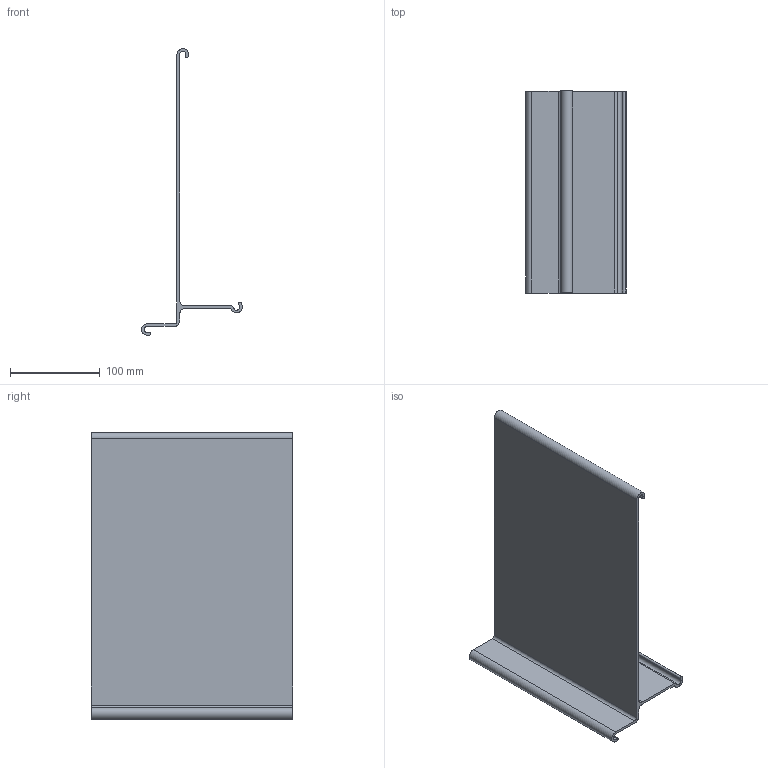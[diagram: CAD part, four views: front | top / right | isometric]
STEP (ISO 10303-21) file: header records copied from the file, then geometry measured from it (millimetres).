
FILE_DESCRIPTION( ( 'Unknown' ), '1' );
FILE_NAME( 'C:/Users/utente/Desktop/DANESE SPACE 2017/archiviovivo/archiviovivo 22,5.stp', 'Unknown', ( 'Unknown' ), ( 'Unknown' ), 'PSStep 14.0', 'Unknown', ' ' );
FILE_SCHEMA( ( 'AUTOMOTIVE_DESIGN { 1 0 10303 214 1 1 1 1 }' ) );
Length unit declared in the file: millimetre
Products named in the file (1): 1
Bounding box: 112.48 x 225 x 319.99 mm (x, y, z)
Volume: 308602.1 mm3; surface area: 205847.3 mm2
Topology: 1 solids, 1 shells, 28 faces, 78 edges, 52 vertices
Faces by surface type: cylinder 15, plane 13
Entity records: 1152 total; most frequent: DIRECTION 166, CARTESIAN_POINT 159, ORIENTED_EDGE 156, EDGE_CURVE 78, AXIS2_PLACEMENT_3D 59, VERTEX_POINT 52, LINE 48, VECTOR 48
